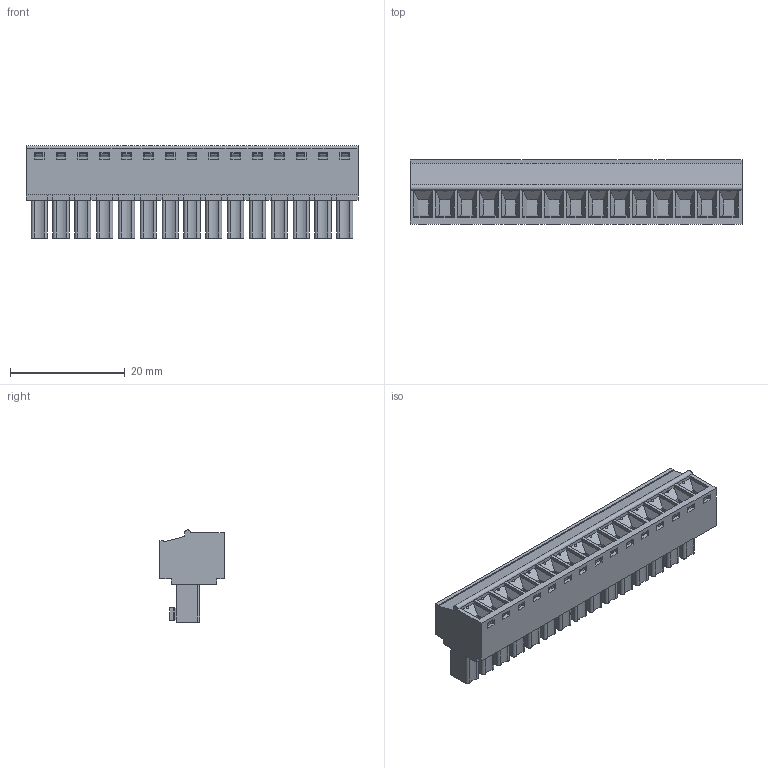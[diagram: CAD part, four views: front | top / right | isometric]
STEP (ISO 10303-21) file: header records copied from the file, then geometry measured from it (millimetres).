
FILE_DESCRIPTION(('FreeCAD Model'),'2;1');
FILE_NAME('Open CASCADE Shape Model','2023-05-24T14:43:20',('Author'),( ''),'Open CASCADE STEP processor 7.6','FreeCAD','Unknown');
FILE_SCHEMA(('AUTOMOTIVE_DESIGN { 1 0 10303 214 1 1 1 1 }'));
Products named in the file (1): BR7F2-15
Bounding box: 57.94 x 11.2 x 16.1 mm (x, y, z)
Volume: 5754.8 mm3; surface area: 5448.4 mm2
Topology: 1 solids, 1 shells, 1333 faces, 3230 edges, 2004 vertices
Faces by surface type: plane 792, cylinder 301, cone 150, torus 60, sphere 30
Entity records: 84141 total; most frequent: CARTESIAN_POINT 18609, DIRECTION 12566, LINE 7598, VECTOR 7598, ORIENTED_EDGE 6400, PCURVE 6400, DEFINITIONAL_REPRESENTATION 6400, EDGE_CURVE 3200
